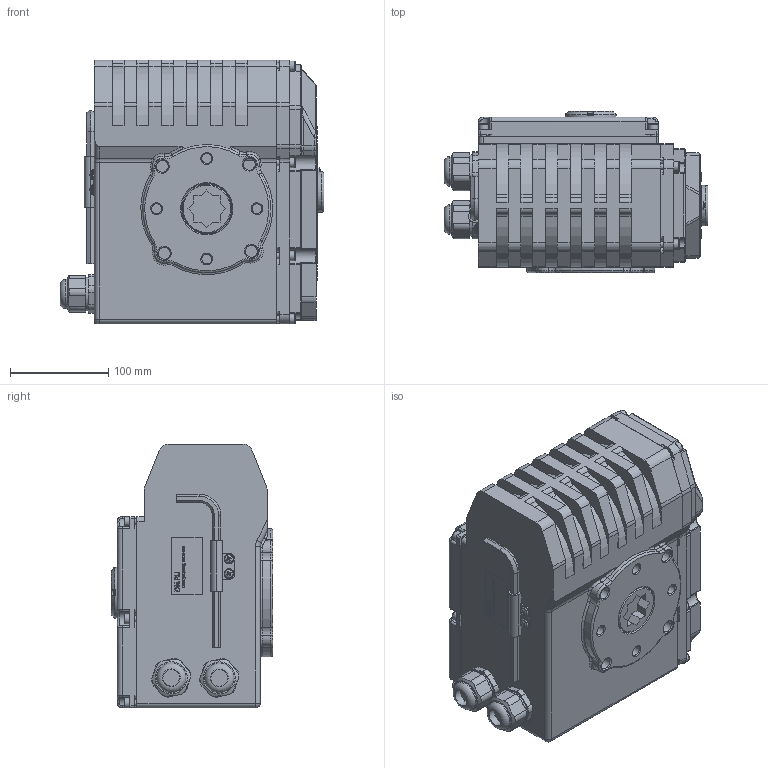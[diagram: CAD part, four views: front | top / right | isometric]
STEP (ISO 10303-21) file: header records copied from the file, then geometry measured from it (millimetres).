
FILE_DESCRIPTION(/* description */ ('D300-14489','CAx-IF Rec.Pracs.---Representation and Presentation of Product Manufacturing Information (PMI)---4.0---2014-10-13'),/* implementation_level */ '2;1');
FILE_NAME(/* name */ '',/* time_stamp */ '2026-04-01T01:36:36+03:00',/* author */ ('DN.RU'),/* organization */ ('DN.RU'),/* preprocessor_version */ 'ST-DEVELOPER v20',/* originating_system */ 'Autodesk Inventor 2025',/* authorisation */ '');
FILE_SCHEMA (('AP242_MANAGED_MODEL_BASED_3D_ENGINEERING_MIM_LF { 1 0 10303 442 1 1 4 }'));
Products named in the file (1): QT-N-080EM-O1-220VAC-У1 HARK
Bounding box: 268 x 164 x 268 mm (x, y, z)
Volume: 7961140 mm3; surface area: 421283.3 mm2
Topology: 1 solids, 1 shells, 1543 faces, 4144 edges, 2702 vertices
Faces by surface type: plane 708, cylinder 334, bspline 271, torus 111, cone 99, sphere 20
Full cylindrical faces by diameter (mm): 6 x14, 10 x16, 12 x4, 17.008 x2, 29.941 x2, 33.98 x2, 34.486 x2, 40 x1, 41.033 x1, 42.826 x1, 50 x1, 51 x1, 52 x1
Entity records: 54257 total; most frequent: CARTESIAN_POINT 15731, ORIENTED_EDGE 8246, DIRECTION 6878, EDGE_CURVE 4123, VERTEX_POINT 2702, AXIS2_PLACEMENT_3D 2356, LINE 2166, VECTOR 2166
